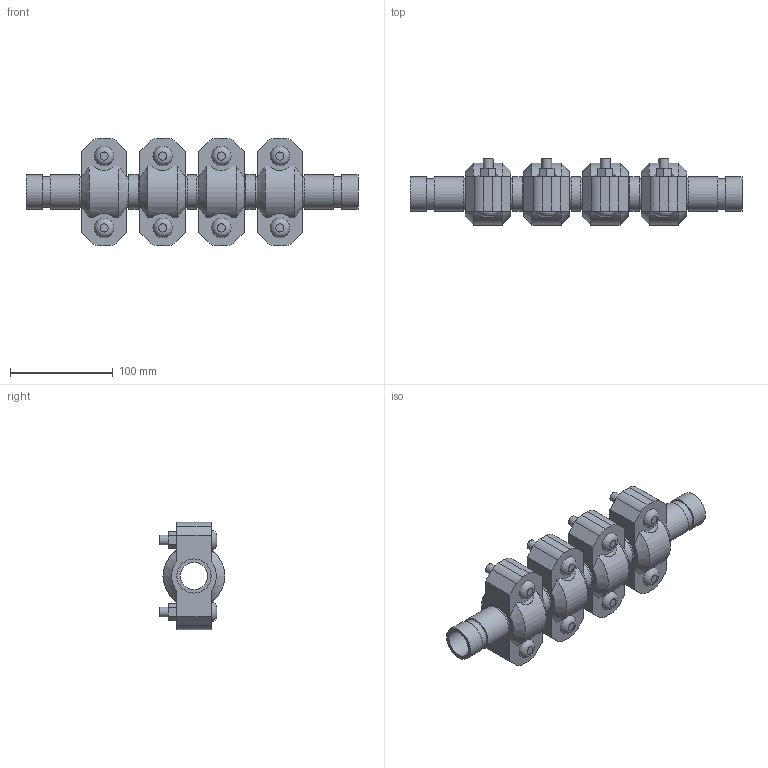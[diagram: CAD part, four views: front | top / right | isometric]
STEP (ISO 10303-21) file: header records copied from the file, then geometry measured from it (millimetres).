
FILE_DESCRIPTION(/* description */ ('VIC EXPANSION JOINT 4 COUPLINGS COMPRESSED STYLE 155 (OGS)','CAx-IF Rec.Pracs.---Representation and Presentation of Product Manufacturing Information (PMI)---4.0---2014-10-13'),/* implementation_level */ '2;1');
FILE_NAME(/* name */ 'C:\Users\kkamble\AppData\Roaming\Autodesk\ApplicationPlugins\Victaulic.Temp\A318\Victaulic_IPS_Expansion Joint_Compressed_4 Couplings_Style 155 (OGS)_1 (25).stp',/* time_stamp */ '2021-06-27T00:27:02+02:00',/* author */ ('kkamble'),/* organization */ ('Victaulic'),/* preprocessor_version */ 'ST-DEVELOPER v17.2',/* originating_system */ 'Autodesk Inventor 2019',/* authorisation */ '');
FILE_SCHEMA (('AP242_MANAGED_MODEL_BASED_3D_ENGINEERING_MIM_LF { 1 0 10303 442 1 1 4 }'));
Length unit declared in the file: inch
Products named in the file (4): 155-01.0; Nipple-01.0; Nipple-01.0_1; 077-01.0
Assembly tree (9 placements, depth 2):
  155-01.0
    Nipple-01.0  x2
    Nipple-01.0_1  x3
    077-01.0  x4
Bounding box: 323.85 x 64.33 x 104.65 mm (x, y, z)
Volume: 671496.4 mm3; surface area: 181129.2 mm2
Topology: 9 solids, 17 shells, 288 faces, 706 edges, 496 vertices
Faces by surface type: plane 166, cylinder 98, cone 16, bspline 8
Full cylindrical faces by diameter (mm): 9.525 x16, 11.43 x8, 26.645 x5, 30.226 x10, 33.401 x19
Entity records: 2875 total; most frequent: CARTESIAN_POINT 555, DIRECTION 463, ORIENTED_EDGE 398, EDGE_CURVE 199, AXIS2_PLACEMENT_3D 184, VERTEX_POINT 142, EDGE_LOOP 105, LINE 95
